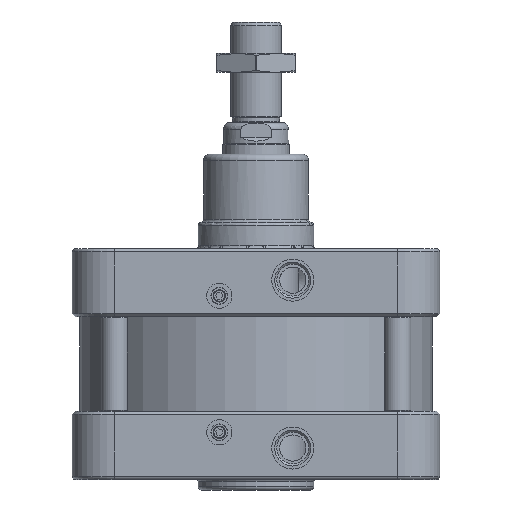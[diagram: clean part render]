
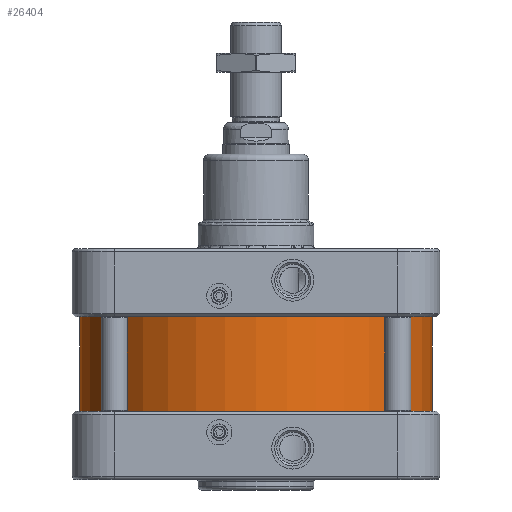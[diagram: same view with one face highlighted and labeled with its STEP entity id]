
A CAD part, front view. The second image highlights one B-rep face of the part: STEP entity #26404.
In plain terms, the highlighted cylindrical face has radius 168 mm (diameter 336 mm), a full revolution.
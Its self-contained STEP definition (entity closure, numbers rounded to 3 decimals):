
#2804=CIRCLE('',#29645,168.);
#2805=CIRCLE('',#29647,168.);
#3478=FACE_BOUND('',#7098,.T.);
#5147=FACE_OUTER_BOUND('',#7097,.T.);
#7097=EDGE_LOOP('',(#22547));
#7098=EDGE_LOOP('',(#22548));
#11979=VERTEX_POINT('',#64759);
#11980=VERTEX_POINT('',#64762);
#15511=EDGE_CURVE('',#11979,#11979,#2804,.T.);
#15512=EDGE_CURVE('',#11980,#11980,#2805,.T.);
#22547=ORIENTED_EDGE('',*,*,#15511,.T.);
#22548=ORIENTED_EDGE('',*,*,#15512,.T.);
#23070=CYLINDRICAL_SURFACE('',#29646,168.);
#26404=ADVANCED_FACE('',(#5147,#3478),#23070,.T.);
#29645=AXIS2_PLACEMENT_3D('',#64760,#36878,#36879);
#29646=AXIS2_PLACEMENT_3D('',#64761,#36880,#36881);
#29647=AXIS2_PLACEMENT_3D('',#64763,#36882,#36883);
#36878=DIRECTION('center_axis',(0.,0.,1.));
#36879=DIRECTION('ref_axis',(-1.,0.,0.));
#36880=DIRECTION('center_axis',(0.,0.,1.));
#36881=DIRECTION('ref_axis',(-1.,0.,0.));
#36882=DIRECTION('center_axis',(0.,0.,-1.));
#36883=DIRECTION('ref_axis',(-1.,0.,0.));
#64759=CARTESIAN_POINT('',(168.,0.,-45.));
#64760=CARTESIAN_POINT('Origin',(0.,0.,-45.));
#64761=CARTESIAN_POINT('Origin',(0.,0.,0.));
#64762=CARTESIAN_POINT('',(168.,0.,45.));
#64763=CARTESIAN_POINT('Origin',(0.,0.,45.));
